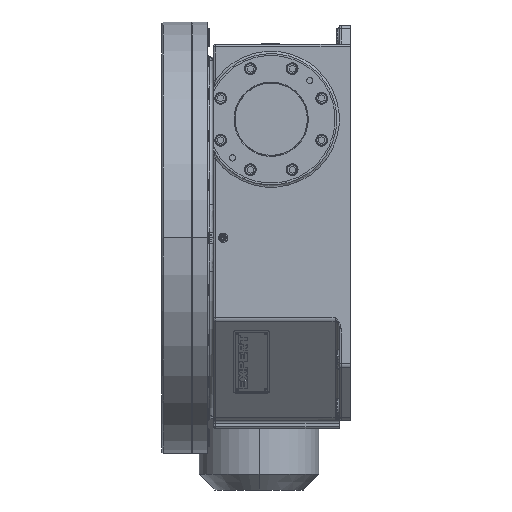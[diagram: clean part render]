
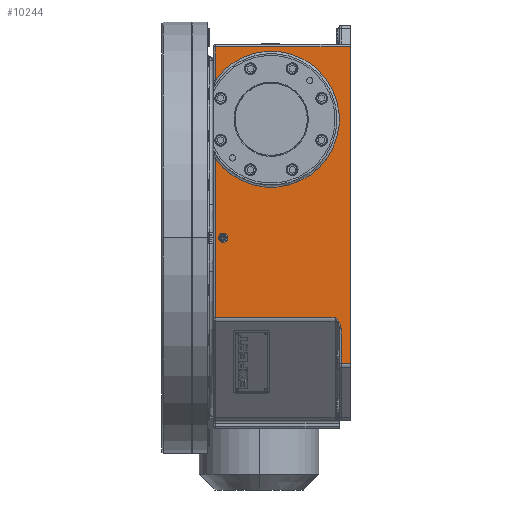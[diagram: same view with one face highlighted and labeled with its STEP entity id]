
A CAD part, left-side view. The second image highlights one B-rep face of the part: STEP entity #10244.
In plain terms, the highlighted planar face has unit normal (-1, 0, 0).
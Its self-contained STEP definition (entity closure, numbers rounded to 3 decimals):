
#183=DIRECTION('',(0.,0.,1.));
#184=VECTOR('',#183,520.979);
#185=CARTESIAN_POINT('',(-300.,0.,-206.979));
#186=LINE('',#185,#184);
#187=DIRECTION('',(0.,-1.,0.));
#188=VECTOR('',#187,15.);
#189=CARTESIAN_POINT('',(-300.,15.,-206.979));
#190=LINE('',#189,#188);
#191=DIRECTION('',(0.,0.,1.));
#192=VECTOR('',#191,56.982);
#193=CARTESIAN_POINT('',(-300.,15.,-206.979));
#194=LINE('',#193,#192);
#195=CARTESIAN_POINT('',(-300.,15.,-149.997));
#196=CARTESIAN_POINT('',(-300.,15.,-148.686));
#197=CARTESIAN_POINT('',(-300.,15.209,-146.207));
#198=CARTESIAN_POINT('',(-300.,16.008,-142.906));
#199=CARTESIAN_POINT('',(-300.,17.209,-140.049));
#200=CARTESIAN_POINT('',(-300.,18.242,-138.473));
#201=CARTESIAN_POINT('',(-300.,18.82,-137.766));
#203=CARTESIAN_POINT('',(-300.,18.82,-137.766));
#204=CARTESIAN_POINT('',(-300.,19.132,-137.385));
#205=CARTESIAN_POINT('',(-300.,19.799,-136.619));
#206=CARTESIAN_POINT('',(-300.,20.934,-135.457));
#207=CARTESIAN_POINT('',(-300.,22.201,-134.277));
#208=CARTESIAN_POINT('',(-300.,23.597,-133.065));
#209=CARTESIAN_POINT('',(-300.,24.53,-132.285));
#210=CARTESIAN_POINT('',(-300.,25.,-131.892));
#212=DIRECTION('',(0.,-1.,0.));
#213=VECTOR('',#212,197.);
#214=CARTESIAN_POINT('',(-300.,222.,-131.892));
#215=LINE('',#214,#213);
#216=DIRECTION('',(0.,0.,1.));
#217=VECTOR('',#216,263.017);
#218=CARTESIAN_POINT('',(-300.,222.,-131.892));
#219=LINE('',#218,#217);
#220=CARTESIAN_POINT('',(-300.,130.,195.));
#221=DIRECTION('',(-1.,0.,0.));
#222=DIRECTION('',(0.,0.821,-0.57));
#223=AXIS2_PLACEMENT_3D('',#220,#221,#222);
#225=DIRECTION('',(0.,0.,-1.));
#226=VECTOR('',#225,55.125);
#227=CARTESIAN_POINT('',(-300.,222.,314.));
#228=LINE('',#227,#226);
#229=DIRECTION('',(0.,-1.,0.));
#230=VECTOR('',#229,222.);
#231=CARTESIAN_POINT('',(-300.,222.,314.));
#232=LINE('',#231,#230);
#233=CARTESIAN_POINT('',(-300.,209.,0.));
#234=DIRECTION('',(-1.,0.,0.));
#235=DIRECTION('',(0.,-1.,0.));
#236=AXIS2_PLACEMENT_3D('',#233,#234,#235);
#238=CARTESIAN_POINT('',(-300.,209.,0.));
#239=DIRECTION('',(-1.,0.,0.));
#240=DIRECTION('',(0.,1.,0.));
#241=AXIS2_PLACEMENT_3D('',#238,#239,#240);
#6825=CARTESIAN_POINT('',(-300.,222.,131.125));
#8412=CARTESIAN_POINT('',(-300.,0.,-206.979));
#8413=CARTESIAN_POINT('',(-300.,0.,314.));
#8414=VERTEX_POINT('',#8412);
#8415=VERTEX_POINT('',#8413);
#8660=CARTESIAN_POINT('',(-300.,216.5,0.));
#8661=CARTESIAN_POINT('',(-300.,201.5,0.));
#8662=VERTEX_POINT('',#8660);
#8663=VERTEX_POINT('',#8661);
#9326=VERTEX_POINT('',#203);
#9327=VERTEX_POINT('',#210);
#9330=VERTEX_POINT('',#195);
#9331=CARTESIAN_POINT('',(-300.,15.,-206.979));
#9332=VERTEX_POINT('',#9331);
#9452=VERTEX_POINT('',#6825);
#9454=CARTESIAN_POINT('',(-300.,222.,-131.892));
#9455=VERTEX_POINT('',#9454);
#9575=CARTESIAN_POINT('',(-300.,222.,314.));
#9576=VERTEX_POINT('',#9575);
#9579=CARTESIAN_POINT('',(-300.,222.,258.875));
#9580=VERTEX_POINT('',#9579);
#10211=CARTESIAN_POINT('',(-300.,-5.,-210.618));
#10212=DIRECTION('',(-1.,0.,0.));
#10213=DIRECTION('',(0.,0.,1.));
#10214=AXIS2_PLACEMENT_3D('',#10211,#10212,#10213);
#10215=PLANE('',#10214);
#10217=ORIENTED_EDGE('',*,*,#10216,.F.);
#10219=ORIENTED_EDGE('',*,*,#10218,.F.);
#10221=ORIENTED_EDGE('',*,*,#10220,.T.);
#10223=ORIENTED_EDGE('',*,*,#10222,.T.);
#10225=ORIENTED_EDGE('',*,*,#10224,.T.);
#10227=ORIENTED_EDGE('',*,*,#10226,.F.);
#10229=ORIENTED_EDGE('',*,*,#10228,.T.);
#10231=ORIENTED_EDGE('',*,*,#10230,.T.);
#10233=ORIENTED_EDGE('',*,*,#10232,.F.);
#10235=ORIENTED_EDGE('',*,*,#10234,.T.);
#10236=EDGE_LOOP('',(#10217,#10219,#10221,#10223,#10225,#10227,#10229,#10231,
#10233,#10235));
#10237=FACE_OUTER_BOUND('',#10236,.F.);
#10239=ORIENTED_EDGE('',*,*,#10238,.T.);
#10241=ORIENTED_EDGE('',*,*,#10240,.T.);
#10242=EDGE_LOOP('',(#10239,#10241));
#10243=FACE_BOUND('',#10242,.F.);
#10244=ADVANCED_FACE('',(#10237,#10243),#10215,.T.);
#202=B_SPLINE_CURVE_WITH_KNOTS('',3,(#195,#196,#197,#198,#199,#200,#201),
.UNSPECIFIED.,.F.,.F.,(4,1,1,1,4),(0.,0.25,0.5,0.75,1.),
.UNSPECIFIED.);
#211=B_SPLINE_CURVE_WITH_KNOTS('',3,(#203,#204,#205,#206,#207,#208,#209,#210),
.UNSPECIFIED.,.F.,.F.,(4,1,1,1,1,4),(0.,0.2,0.4,0.6,0.8,1.),
.UNSPECIFIED.);
#224=CIRCLE('',#223,112.);
#237=CIRCLE('',#236,7.5);
#242=CIRCLE('',#241,7.5);
#10216=EDGE_CURVE('',#8414,#8415,#186,.T.);
#10218=EDGE_CURVE('',#9332,#8414,#190,.T.);
#10220=EDGE_CURVE('',#9332,#9330,#194,.T.);
#10222=EDGE_CURVE('',#9330,#9326,#202,.T.);
#10224=EDGE_CURVE('',#9326,#9327,#211,.T.);
#10226=EDGE_CURVE('',#9455,#9327,#215,.T.);
#10228=EDGE_CURVE('',#9455,#9452,#219,.T.);
#10230=EDGE_CURVE('',#9452,#9580,#224,.T.);
#10232=EDGE_CURVE('',#9576,#9580,#228,.T.);
#10234=EDGE_CURVE('',#9576,#8415,#232,.T.);
#10238=EDGE_CURVE('',#8663,#8662,#237,.T.);
#10240=EDGE_CURVE('',#8662,#8663,#242,.T.);
